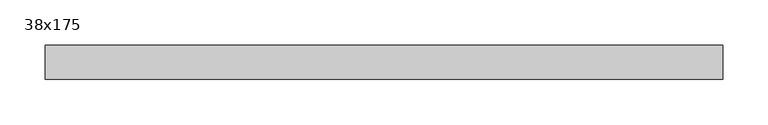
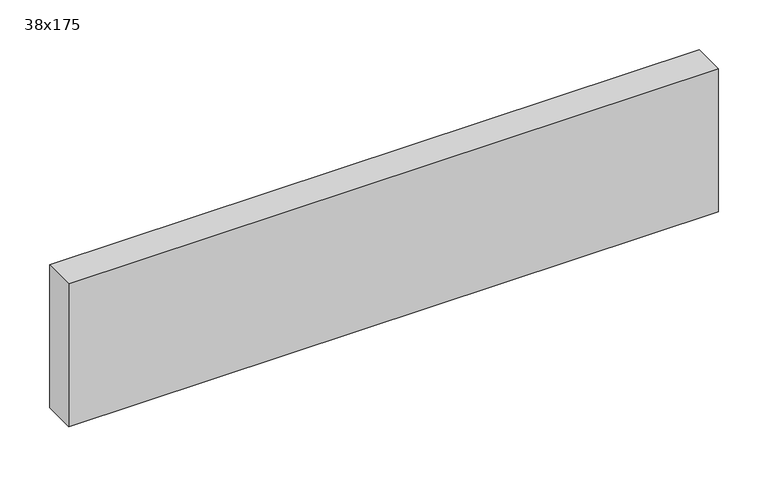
"""IFC4 building model written with IfcOpenShell, lengths in millimetres: beam geometry, Graded Timber : 38x175."""

from ifc_helpers import new_model, si_unit, frame, origin, place, context, project, spatial, polyline, outline, extrude, source, transform, mapped, element, save


def beam_38x175_49020f02(model_context):
    return source(origin(), model_context, "Body", "SweptSolid", [
        extrude(outline(polyline([(375.0, 19.0), (375.0, -19.0), (-376.0, -19.0), (-376.0, 19.0), (375.0, 19.0)])), frame((0.0, 0.0, -87.5), z_axis=(0.0, 0.0, 1.0), x_axis=(1.0, 0.0, 0.0)), (0.0, 0.0, 1.0), 175.0),
    ])


if __name__ == "__main__":
    model = new_model("IFC4")
    model_context = context("Model", 3, world=origin())
    ifc_project = project(units=[si_unit("LENGTHUNIT", "METRE", prefix="MILLI")], contexts=[model_context])
    site = spatial("IfcSite", under=ifc_project)
    building = spatial("IfcBuilding", under=site)
    placement = place(None, origin())
    beam_38x175_shape = beam_38x175_49020f02(model_context)
    element("IfcBeam", 1, ObjectType="Graded Timber : 38x175", at=placement, inside=building, context=model_context, shape_type="MappedRepresentation", body=[
        mapped(beam_38x175_shape, transform((0.0, 0.0, 0.0), x_axis=(1.0, 0.0, 0.0), y_axis=(0.0, 1.0, 0.0), z_axis=(0.0, 0.0, 1.0))),
    ])
    save(model, "model.ifc")
